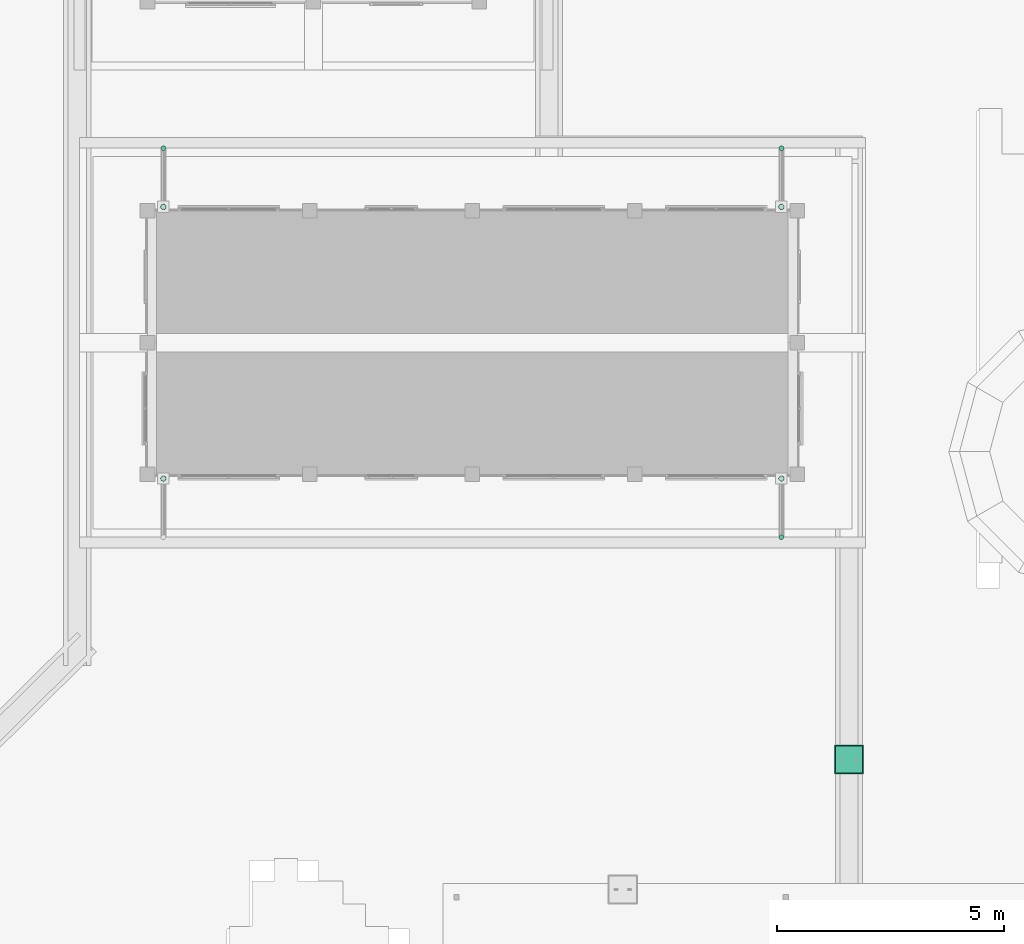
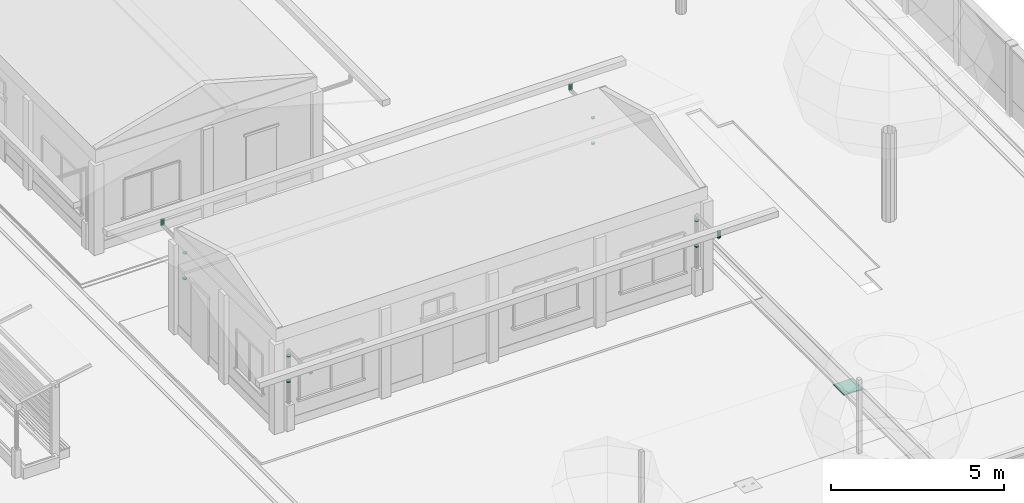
# One storey, part 119 of 177: 11 pipe segments, 2 distribution chamber elements.
"""IFC4 building model written with IfcOpenShell, lengths in metres."""

from ifc_helpers import new_model, si_unit, origin, origin_with_axes, place, context, subcontext, project, spatial, triangles, element, save


model = new_model("IFC4")

# Units and contexts
model_context = context("Model", 3, precision=1e-05, world=origin_with_axes())
body_context = subcontext(model_context, "Body", "Model", "MODEL_VIEW")
ifc_project = project(units=[si_unit("LENGTHUNIT", "METRE"), si_unit("AREAUNIT", "SQUARE_METRE"), si_unit("VOLUMEUNIT", "CUBIC_METRE"), si_unit("PLANEANGLEUNIT", "RADIAN")], contexts=[model_context])

# Site, building, storey
site_placement = place(None, origin_with_axes())
site = spatial("IfcSite", under=ifc_project, at=site_placement, Name="Predio Los Mangos - Morales, San Martín", CompositionType="ELEMENT")
building_placement = place(site_placement, origin())
building = spatial("IfcBuilding", under=site, at=building_placement, Name="Hogar de Refugio Temporal", CompositionType="ELEMENT")
storey_placement = place(building_placement, origin())
storey = spatial("IfcBuildingStorey", under=building, at=storey_placement, Name="NIVEL 1 (NPT +0.00)", CompositionType="ELEMENT", Elevation=0.0)

# Pipe segments
pipe_segment_1_placement = place(storey_placement, origin())
element("IfcPipeSegment", 1, at=pipe_segment_1_placement, inside=storey, Name="montante_abrazadera", ObjectType="Montante PVC 4\"", PredefinedType="RIGIDSEGMENT", context=body_context, shape_type="Tessellation", body=[
    triangles([(45.65, 32.348, 1.8), (45.65, 32.348, 1.84), (45.619, 32.3563, 1.8), (45.619, 32.3563, 1.84), (45.5963, 32.379, 1.8), (45.5963, 32.379, 1.84), (45.588, 32.41, 1.8), (45.588, 32.41, 1.84), (45.5963, 32.441, 1.8), (45.5963, 32.441, 1.84), (45.619, 32.4637, 1.8), (45.619, 32.4637, 1.84), (45.65, 32.472, 1.8), (45.65, 32.472, 1.84), (45.681, 32.4637, 1.8), (45.681, 32.4637, 1.84), (45.7037, 32.441, 1.8), (45.7037, 32.441, 1.84), (45.712, 32.41, 1.8), (45.712, 32.41, 1.84), (45.7037, 32.379, 1.8), (45.7037, 32.379, 1.84), (45.681, 32.3563, 1.8), (45.681, 32.3563, 1.84)], [[1, 2, 4], [1, 4, 3], [3, 4, 6], [3, 6, 5], [5, 6, 8], [5, 8, 7], [7, 8, 10], [7, 10, 9], [9, 10, 12], [9, 12, 11], [11, 12, 14], [11, 14, 13], [13, 14, 16], [13, 16, 15], [15, 16, 18], [15, 18, 17], [17, 18, 20], [17, 20, 19], [19, 20, 22], [19, 22, 21], [6, 4, 2], [2, 24, 22], [22, 20, 18], [18, 16, 14], [14, 12, 10], [10, 8, 6], [6, 2, 22], [22, 18, 14], [14, 10, 6], [22, 14, 6], [21, 22, 24], [21, 24, 23], [23, 24, 2], [23, 2, 1], [23, 1, 3], [3, 5, 7], [7, 9, 11], [11, 13, 15], [15, 17, 19], [19, 21, 23], [23, 3, 7], [7, 11, 15], [15, 19, 23], [7, 15, 23]]),
])
pipe_segment_2_placement = place(storey_placement, origin())
element("IfcPipeSegment", 2, at=pipe_segment_2_placement, inside=storey, Name="montante_abrazadera", ObjectType="Montante PVC 4\"", PredefinedType="RIGIDSEGMENT", context=body_context, shape_type="Tessellation", body=[
    triangles([(45.65, 32.348, 2.7), (45.65, 32.348, 2.74), (45.619, 32.3563, 2.7), (45.619, 32.3563, 2.74), (45.5963, 32.379, 2.7), (45.5963, 32.379, 2.74), (45.588, 32.41, 2.7), (45.588, 32.41, 2.74), (45.5963, 32.441, 2.7), (45.5963, 32.441, 2.74), (45.619, 32.4637, 2.7), (45.619, 32.4637, 2.74), (45.65, 32.472, 2.7), (45.65, 32.472, 2.74), (45.681, 32.4637, 2.7), (45.681, 32.4637, 2.74), (45.7037, 32.441, 2.7), (45.7037, 32.441, 2.74), (45.712, 32.41, 2.7), (45.712, 32.41, 2.74), (45.7037, 32.379, 2.7), (45.7037, 32.379, 2.74), (45.681, 32.3563, 2.7), (45.681, 32.3563, 2.74)], [[1, 2, 4], [1, 4, 3], [3, 4, 6], [3, 6, 5], [5, 6, 8], [5, 8, 7], [7, 8, 10], [7, 10, 9], [9, 10, 12], [9, 12, 11], [11, 12, 14], [11, 14, 13], [13, 14, 16], [13, 16, 15], [15, 16, 18], [15, 18, 17], [17, 18, 20], [17, 20, 19], [19, 20, 22], [19, 22, 21], [6, 4, 2], [2, 24, 22], [22, 20, 18], [18, 16, 14], [14, 12, 10], [10, 8, 6], [6, 2, 22], [22, 18, 14], [14, 10, 6], [22, 14, 6], [21, 22, 24], [21, 24, 23], [23, 24, 2], [23, 2, 1], [23, 1, 3], [3, 5, 7], [7, 9, 11], [11, 13, 15], [15, 17, 19], [19, 21, 23], [23, 3, 7], [7, 11, 15], [15, 19, 23], [7, 15, 23]]),
])
pipe_segment_3_placement = place(storey_placement, origin())
element("IfcPipeSegment", 3, at=pipe_segment_3_placement, inside=storey, Name="montante_boquilla", ObjectType="Montante PVC 4\"", PredefinedType="RIGIDSEGMENT", context=body_context, shape_type="Tessellation", body=[
    triangles([(59.25, 31.175, 3.13), (59.25, 31.175, 2.91), (59.2225, 31.1676, 3.13), (59.2225, 31.1676, 2.91), (59.2024, 31.1475, 3.13), (59.2024, 31.1475, 2.91), (59.195, 31.12, 3.13), (59.195, 31.12, 2.91), (59.2024, 31.0925, 3.13), (59.2024, 31.0925, 2.91), (59.2225, 31.0724, 3.13), (59.2225, 31.0724, 2.91), (59.25, 31.065, 3.13), (59.25, 31.065, 2.91), (59.2775, 31.0724, 3.13), (59.2775, 31.0724, 2.91), (59.2976, 31.0925, 3.13), (59.2976, 31.0925, 2.91), (59.305, 31.12, 3.13), (59.305, 31.12, 2.91), (59.2976, 31.1475, 3.13), (59.2976, 31.1475, 2.91), (59.2775, 31.1676, 3.13), (59.2775, 31.1676, 2.91)], [[1, 2, 4], [1, 4, 3], [3, 4, 6], [3, 6, 5], [5, 6, 8], [5, 8, 7], [7, 8, 10], [7, 10, 9], [9, 10, 12], [9, 12, 11], [11, 12, 14], [11, 14, 13], [13, 14, 16], [13, 16, 15], [15, 16, 18], [15, 18, 17], [17, 18, 20], [17, 20, 19], [19, 20, 22], [19, 22, 21], [6, 4, 2], [2, 24, 22], [22, 20, 18], [18, 16, 14], [14, 12, 10], [10, 8, 6], [6, 2, 22], [22, 18, 14], [14, 10, 6], [22, 14, 6], [21, 22, 24], [21, 24, 23], [23, 24, 2], [23, 2, 1], [23, 1, 3], [3, 5, 7], [7, 9, 11], [11, 13, 15], [15, 17, 19], [19, 21, 23], [23, 3, 7], [7, 11, 15], [15, 19, 23], [7, 15, 23]]),
])
pipe_segment_4_placement = place(storey_placement, origin())
element("IfcPipeSegment", 4, at=pipe_segment_4_placement, inside=storey, Name="montante_abrazadera", ObjectType="Montante PVC 4\"", PredefinedType="RIGIDSEGMENT", context=body_context, shape_type="Tessellation", body=[
    triangles([(59.25, 32.348, 1.8), (59.25, 32.348, 1.84), (59.219, 32.3563, 1.8), (59.219, 32.3563, 1.84), (59.1963, 32.379, 1.8), (59.1963, 32.379, 1.84), (59.188, 32.41, 1.8), (59.188, 32.41, 1.84), (59.1963, 32.441, 1.8), (59.1963, 32.441, 1.84), (59.219, 32.4637, 1.8), (59.219, 32.4637, 1.84), (59.25, 32.472, 1.8), (59.25, 32.472, 1.84), (59.281, 32.4637, 1.8), (59.281, 32.4637, 1.84), (59.3037, 32.441, 1.8), (59.3037, 32.441, 1.84), (59.312, 32.41, 1.8), (59.312, 32.41, 1.84), (59.3037, 32.379, 1.8), (59.3037, 32.379, 1.84), (59.281, 32.3563, 1.8), (59.281, 32.3563, 1.84)], [[1, 2, 4], [1, 4, 3], [3, 4, 6], [3, 6, 5], [5, 6, 8], [5, 8, 7], [7, 8, 10], [7, 10, 9], [9, 10, 12], [9, 12, 11], [11, 12, 14], [11, 14, 13], [13, 14, 16], [13, 16, 15], [15, 16, 18], [15, 18, 17], [17, 18, 20], [17, 20, 19], [19, 20, 22], [19, 22, 21], [6, 4, 2], [2, 24, 22], [22, 20, 18], [18, 16, 14], [14, 12, 10], [10, 8, 6], [6, 2, 22], [22, 18, 14], [14, 10, 6], [22, 14, 6], [21, 22, 24], [21, 24, 23], [23, 24, 2], [23, 2, 1], [23, 1, 3], [3, 5, 7], [7, 9, 11], [11, 13, 15], [15, 17, 19], [19, 21, 23], [23, 3, 7], [7, 11, 15], [15, 19, 23], [7, 15, 23]]),
])
pipe_segment_5_placement = place(storey_placement, origin())
element("IfcPipeSegment", 5, at=pipe_segment_5_placement, inside=storey, Name="montante_abrazadera", ObjectType="Montante PVC 4\"", PredefinedType="RIGIDSEGMENT", context=body_context, shape_type="Tessellation", body=[
    triangles([(59.25, 32.348, 2.7), (59.25, 32.348, 2.74), (59.219, 32.3563, 2.7), (59.219, 32.3563, 2.74), (59.1963, 32.379, 2.7), (59.1963, 32.379, 2.74), (59.188, 32.41, 2.7), (59.188, 32.41, 2.74), (59.1963, 32.441, 2.7), (59.1963, 32.441, 2.74), (59.219, 32.4637, 2.7), (59.219, 32.4637, 2.74), (59.25, 32.472, 2.7), (59.25, 32.472, 2.74), (59.281, 32.4637, 2.7), (59.281, 32.4637, 2.74), (59.3037, 32.441, 2.7), (59.3037, 32.441, 2.74), (59.312, 32.41, 2.7), (59.312, 32.41, 2.74), (59.3037, 32.379, 2.7), (59.3037, 32.379, 2.74), (59.281, 32.3563, 2.7), (59.281, 32.3563, 2.74)], [[1, 2, 4], [1, 4, 3], [3, 4, 6], [3, 6, 5], [5, 6, 8], [5, 8, 7], [7, 8, 10], [7, 10, 9], [9, 10, 12], [9, 12, 11], [11, 12, 14], [11, 14, 13], [13, 14, 16], [13, 16, 15], [15, 16, 18], [15, 18, 17], [17, 18, 20], [17, 20, 19], [19, 20, 22], [19, 22, 21], [6, 4, 2], [2, 24, 22], [22, 20, 18], [18, 16, 14], [14, 12, 10], [10, 8, 6], [6, 2, 22], [22, 18, 14], [14, 10, 6], [22, 14, 6], [21, 22, 24], [21, 24, 23], [23, 24, 2], [23, 2, 1], [23, 1, 3], [3, 5, 7], [7, 9, 11], [11, 13, 15], [15, 17, 19], [19, 21, 23], [23, 3, 7], [7, 11, 15], [15, 19, 23], [7, 15, 23]]),
])
pipe_segment_6_placement = place(storey_placement, origin())
element("IfcPipeSegment", 6, at=pipe_segment_6_placement, inside=storey, Name="montante_boquilla", ObjectType="Montante PVC 4\"", PredefinedType="RIGIDSEGMENT", context=body_context, shape_type="Tessellation", body=[
    triangles([(45.65, 39.735, 3.13), (45.65, 39.735, 2.91), (45.6225, 39.7276, 3.13), (45.6225, 39.7276, 2.91), (45.6024, 39.7075, 3.13), (45.6024, 39.7075, 2.91), (45.595, 39.68, 3.13), (45.595, 39.68, 2.91), (45.6024, 39.6525, 3.13), (45.6024, 39.6525, 2.91), (45.6225, 39.6324, 3.13), (45.6225, 39.6324, 2.91), (45.65, 39.625, 3.13), (45.65, 39.625, 2.91), (45.6775, 39.6324, 3.13), (45.6775, 39.6324, 2.91), (45.6976, 39.6525, 3.13), (45.6976, 39.6525, 2.91), (45.705, 39.68, 3.13), (45.705, 39.68, 2.91), (45.6976, 39.7075, 3.13), (45.6976, 39.7075, 2.91), (45.6775, 39.7276, 3.13), (45.6775, 39.7276, 2.91)], [[1, 2, 4], [1, 4, 3], [3, 4, 6], [3, 6, 5], [5, 6, 8], [5, 8, 7], [7, 8, 10], [7, 10, 9], [9, 10, 12], [9, 12, 11], [11, 12, 14], [11, 14, 13], [13, 14, 16], [13, 16, 15], [15, 16, 18], [15, 18, 17], [17, 18, 20], [17, 20, 19], [19, 20, 22], [19, 22, 21], [6, 4, 2], [2, 24, 22], [22, 20, 18], [18, 16, 14], [14, 12, 10], [10, 8, 6], [6, 2, 22], [22, 18, 14], [14, 10, 6], [22, 14, 6], [21, 22, 24], [21, 24, 23], [23, 24, 2], [23, 2, 1], [23, 1, 3], [3, 5, 7], [7, 9, 11], [11, 13, 15], [15, 17, 19], [19, 21, 23], [23, 3, 7], [7, 11, 15], [15, 19, 23], [7, 15, 23]]),
])
pipe_segment_7_placement = place(storey_placement, origin())
element("IfcPipeSegment", 7, at=pipe_segment_7_placement, inside=storey, Name="montante_abrazadera", ObjectType="Montante PVC 4\"", PredefinedType="RIGIDSEGMENT", context=body_context, shape_type="Tessellation", body=[
    triangles([(45.65, 38.328, 1.8), (45.65, 38.328, 1.84), (45.619, 38.3363, 1.8), (45.619, 38.3363, 1.84), (45.5963, 38.359, 1.8), (45.5963, 38.359, 1.84), (45.588, 38.39, 1.8), (45.588, 38.39, 1.84), (45.5963, 38.421, 1.8), (45.5963, 38.421, 1.84), (45.619, 38.4437, 1.8), (45.619, 38.4437, 1.84), (45.65, 38.452, 1.8), (45.65, 38.452, 1.84), (45.681, 38.4437, 1.8), (45.681, 38.4437, 1.84), (45.7037, 38.421, 1.8), (45.7037, 38.421, 1.84), (45.712, 38.39, 1.8), (45.712, 38.39, 1.84), (45.7037, 38.359, 1.8), (45.7037, 38.359, 1.84), (45.681, 38.3363, 1.8), (45.681, 38.3363, 1.84)], [[1, 2, 4], [1, 4, 3], [3, 4, 6], [3, 6, 5], [5, 6, 8], [5, 8, 7], [7, 8, 10], [7, 10, 9], [9, 10, 12], [9, 12, 11], [11, 12, 14], [11, 14, 13], [13, 14, 16], [13, 16, 15], [15, 16, 18], [15, 18, 17], [17, 18, 20], [17, 20, 19], [19, 20, 22], [19, 22, 21], [6, 4, 2], [2, 24, 22], [22, 20, 18], [18, 16, 14], [14, 12, 10], [10, 8, 6], [6, 2, 22], [22, 18, 14], [14, 10, 6], [22, 14, 6], [21, 22, 24], [21, 24, 23], [23, 24, 2], [23, 2, 1], [23, 1, 3], [3, 5, 7], [7, 9, 11], [11, 13, 15], [15, 17, 19], [19, 21, 23], [23, 3, 7], [7, 11, 15], [15, 19, 23], [7, 15, 23]]),
])
pipe_segment_8_placement = place(storey_placement, origin())
element("IfcPipeSegment", 8, at=pipe_segment_8_placement, inside=storey, Name="montante_abrazadera", ObjectType="Montante PVC 4\"", PredefinedType="RIGIDSEGMENT", context=body_context, shape_type="Tessellation", body=[
    triangles([(45.65, 38.328, 2.7), (45.65, 38.328, 2.74), (45.619, 38.3363, 2.7), (45.619, 38.3363, 2.74), (45.5963, 38.359, 2.7), (45.5963, 38.359, 2.74), (45.588, 38.39, 2.7), (45.588, 38.39, 2.74), (45.5963, 38.421, 2.7), (45.5963, 38.421, 2.74), (45.619, 38.4437, 2.7), (45.619, 38.4437, 2.74), (45.65, 38.452, 2.7), (45.65, 38.452, 2.74), (45.681, 38.4437, 2.7), (45.681, 38.4437, 2.74), (45.7037, 38.421, 2.7), (45.7037, 38.421, 2.74), (45.712, 38.39, 2.7), (45.712, 38.39, 2.74), (45.7037, 38.359, 2.7), (45.7037, 38.359, 2.74), (45.681, 38.3363, 2.7), (45.681, 38.3363, 2.74)], [[1, 2, 4], [1, 4, 3], [3, 4, 6], [3, 6, 5], [5, 6, 8], [5, 8, 7], [7, 8, 10], [7, 10, 9], [9, 10, 12], [9, 12, 11], [11, 12, 14], [11, 14, 13], [13, 14, 16], [13, 16, 15], [15, 16, 18], [15, 18, 17], [17, 18, 20], [17, 20, 19], [19, 20, 22], [19, 22, 21], [6, 4, 2], [2, 24, 22], [22, 20, 18], [18, 16, 14], [14, 12, 10], [10, 8, 6], [6, 2, 22], [22, 18, 14], [14, 10, 6], [22, 14, 6], [21, 22, 24], [21, 24, 23], [23, 24, 2], [23, 2, 1], [23, 1, 3], [3, 5, 7], [7, 9, 11], [11, 13, 15], [15, 17, 19], [19, 21, 23], [23, 3, 7], [7, 11, 15], [15, 19, 23], [7, 15, 23]]),
])
pipe_segment_9_placement = place(storey_placement, origin())
element("IfcPipeSegment", 9, at=pipe_segment_9_placement, inside=storey, Name="montante_boquilla", ObjectType="Montante PVC 4\"", PredefinedType="RIGIDSEGMENT", context=body_context, shape_type="Tessellation", body=[
    triangles([(59.25, 39.735, 3.13), (59.25, 39.735, 2.91), (59.2225, 39.7276, 3.13), (59.2225, 39.7276, 2.91), (59.2024, 39.7075, 3.13), (59.2024, 39.7075, 2.91), (59.195, 39.68, 3.13), (59.195, 39.68, 2.91), (59.2024, 39.6525, 3.13), (59.2024, 39.6525, 2.91), (59.2225, 39.6324, 3.13), (59.2225, 39.6324, 2.91), (59.25, 39.625, 3.13), (59.25, 39.625, 2.91), (59.2775, 39.6324, 3.13), (59.2775, 39.6324, 2.91), (59.2976, 39.6525, 3.13), (59.2976, 39.6525, 2.91), (59.305, 39.68, 3.13), (59.305, 39.68, 2.91), (59.2976, 39.7075, 3.13), (59.2976, 39.7075, 2.91), (59.2775, 39.7276, 3.13), (59.2775, 39.7276, 2.91)], [[1, 2, 4], [1, 4, 3], [3, 4, 6], [3, 6, 5], [5, 6, 8], [5, 8, 7], [7, 8, 10], [7, 10, 9], [9, 10, 12], [9, 12, 11], [11, 12, 14], [11, 14, 13], [13, 14, 16], [13, 16, 15], [15, 16, 18], [15, 18, 17], [17, 18, 20], [17, 20, 19], [19, 20, 22], [19, 22, 21], [6, 4, 2], [2, 24, 22], [22, 20, 18], [18, 16, 14], [14, 12, 10], [10, 8, 6], [6, 2, 22], [22, 18, 14], [14, 10, 6], [22, 14, 6], [21, 22, 24], [21, 24, 23], [23, 24, 2], [23, 2, 1], [23, 1, 3], [3, 5, 7], [7, 9, 11], [11, 13, 15], [15, 17, 19], [19, 21, 23], [23, 3, 7], [7, 11, 15], [15, 19, 23], [7, 15, 23]]),
])
pipe_segment_10_placement = place(storey_placement, origin())
element("IfcPipeSegment", 10, at=pipe_segment_10_placement, inside=storey, Name="montante_abrazadera", ObjectType="Montante PVC 4\"", PredefinedType="RIGIDSEGMENT", context=body_context, shape_type="Tessellation", body=[
    triangles([(59.25, 38.328, 1.8), (59.25, 38.328, 1.84), (59.219, 38.3363, 1.8), (59.219, 38.3363, 1.84), (59.1963, 38.359, 1.8), (59.1963, 38.359, 1.84), (59.188, 38.39, 1.8), (59.188, 38.39, 1.84), (59.1963, 38.421, 1.8), (59.1963, 38.421, 1.84), (59.219, 38.4437, 1.8), (59.219, 38.4437, 1.84), (59.25, 38.452, 1.8), (59.25, 38.452, 1.84), (59.281, 38.4437, 1.8), (59.281, 38.4437, 1.84), (59.3037, 38.421, 1.8), (59.3037, 38.421, 1.84), (59.312, 38.39, 1.8), (59.312, 38.39, 1.84), (59.3037, 38.359, 1.8), (59.3037, 38.359, 1.84), (59.281, 38.3363, 1.8), (59.281, 38.3363, 1.84)], [[1, 2, 4], [1, 4, 3], [3, 4, 6], [3, 6, 5], [5, 6, 8], [5, 8, 7], [7, 8, 10], [7, 10, 9], [9, 10, 12], [9, 12, 11], [11, 12, 14], [11, 14, 13], [13, 14, 16], [13, 16, 15], [15, 16, 18], [15, 18, 17], [17, 18, 20], [17, 20, 19], [19, 20, 22], [19, 22, 21], [6, 4, 2], [2, 24, 22], [22, 20, 18], [18, 16, 14], [14, 12, 10], [10, 8, 6], [6, 2, 22], [22, 18, 14], [14, 10, 6], [22, 14, 6], [21, 22, 24], [21, 24, 23], [23, 24, 2], [23, 2, 1], [23, 1, 3], [3, 5, 7], [7, 9, 11], [11, 13, 15], [15, 17, 19], [19, 21, 23], [23, 3, 7], [7, 11, 15], [15, 19, 23], [7, 15, 23]]),
])
pipe_segment_11_placement = place(storey_placement, origin())
element("IfcPipeSegment", 11, at=pipe_segment_11_placement, inside=storey, Name="montante_abrazadera", ObjectType="Montante PVC 4\"", PredefinedType="RIGIDSEGMENT", context=body_context, shape_type="Tessellation", body=[
    triangles([(59.25, 38.328, 2.7), (59.25, 38.328, 2.74), (59.219, 38.3363, 2.7), (59.219, 38.3363, 2.74), (59.1963, 38.359, 2.7), (59.1963, 38.359, 2.74), (59.188, 38.39, 2.7), (59.188, 38.39, 2.74), (59.1963, 38.421, 2.7), (59.1963, 38.421, 2.74), (59.219, 38.4437, 2.7), (59.219, 38.4437, 2.74), (59.25, 38.452, 2.7), (59.25, 38.452, 2.74), (59.281, 38.4437, 2.7), (59.281, 38.4437, 2.74), (59.3037, 38.421, 2.7), (59.3037, 38.421, 2.74), (59.312, 38.39, 2.7), (59.312, 38.39, 2.74), (59.3037, 38.359, 2.7), (59.3037, 38.359, 2.74), (59.281, 38.3363, 2.7), (59.281, 38.3363, 2.74)], [[1, 2, 4], [1, 4, 3], [3, 4, 6], [3, 6, 5], [5, 6, 8], [5, 8, 7], [7, 8, 10], [7, 10, 9], [9, 10, 12], [9, 12, 11], [11, 12, 14], [11, 14, 13], [13, 14, 16], [13, 16, 15], [15, 16, 18], [15, 18, 17], [17, 18, 20], [17, 20, 19], [19, 20, 22], [19, 22, 21], [6, 4, 2], [2, 24, 22], [22, 20, 18], [18, 16, 14], [14, 12, 10], [10, 8, 6], [6, 2, 22], [22, 18, 14], [14, 10, 6], [22, 14, 6], [21, 22, 24], [21, 24, 23], [23, 24, 2], [23, 2, 1], [23, 1, 3], [3, 5, 7], [7, 9, 11], [11, 13, 15], [15, 17, 19], [19, 21, 23], [23, 3, 7], [7, 11, 15], [15, 19, 23], [7, 15, 23]]),
])

# Distribution chamber elements
distribution_chamber_element_1_placement = place(storey_placement, origin())
element("IfcDistributionChamberElement", 12, at=distribution_chamber_element_1_placement, inside=storey, Name="tapa_insp_junta", ObjectType="Tapa de inspección", PredefinedType="INSPECTIONCHAMBER", context=body_context, shape_type="Tessellation", body=[
    triangles([(60.415, 25.906, 0.082), (61.055, 25.906, 0.082), (61.055, 26.546, 0.082), (60.415, 26.546, 0.082), (60.415, 25.906, 0.096), (61.055, 25.906, 0.096), (61.055, 26.546, 0.096), (60.415, 26.546, 0.096)], [[1, 4, 3], [1, 3, 2], [5, 6, 7], [5, 7, 8], [1, 2, 6], [1, 6, 5], [2, 3, 7], [2, 7, 6], [3, 4, 8], [3, 8, 7], [4, 1, 5], [4, 5, 8]]),
])
distribution_chamber_element_2_placement = place(storey_placement, origin())
element("IfcDistributionChamberElement", 13, at=distribution_chamber_element_2_placement, inside=storey, Name="tapa_inspeccion", ObjectType="Tapa de inspección", PredefinedType="INSPECTIONCHAMBER", context=body_context, shape_type="Tessellation", body=[
    triangles([(60.435, 25.926, 0.082), (61.035, 25.926, 0.082), (61.035, 26.526, 0.082), (60.435, 26.526, 0.082), (60.435, 25.926, 0.104), (61.035, 25.926, 0.104), (61.035, 26.526, 0.104), (60.435, 26.526, 0.104)], [[1, 4, 3], [1, 3, 2], [5, 6, 7], [5, 7, 8], [1, 2, 6], [1, 6, 5], [2, 3, 7], [2, 7, 6], [3, 4, 8], [3, 8, 7], [4, 1, 5], [4, 5, 8]]),
])

save(model, "model.ifc")
